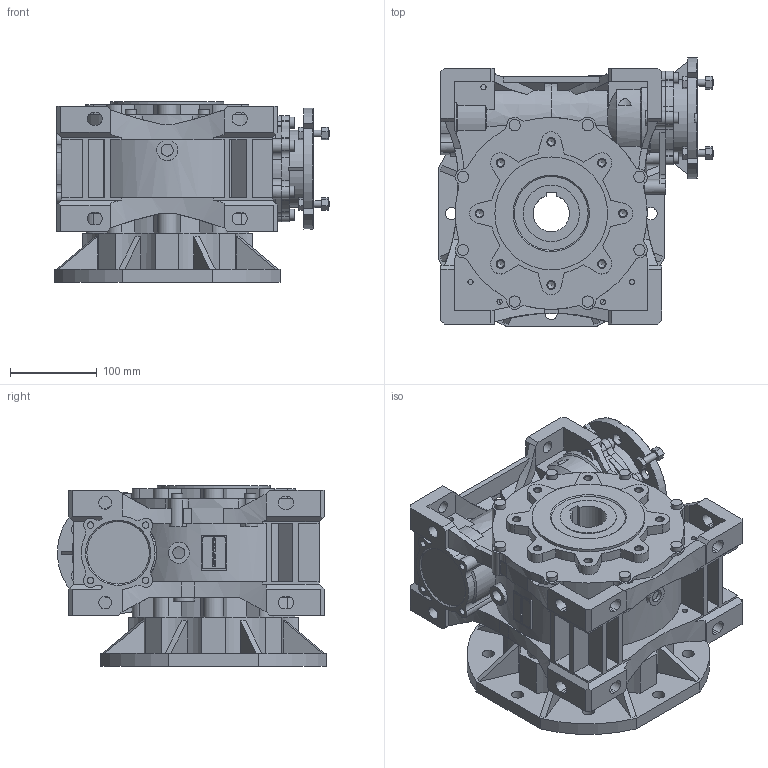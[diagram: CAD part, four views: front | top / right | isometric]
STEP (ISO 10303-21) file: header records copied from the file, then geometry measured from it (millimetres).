
FILE_DESCRIPTION(/* description */ ('STEP AP203'),/* implementation_level */ '2;1');
FILE_NAME(/* name */ 'NMRVP_110_140x24_42_NO_FA_280_S_NO_-_-_-_NO_NO_-_---_---------------',/* time_stamp */ '2025-11-21T02:17:53+01:00',/* author */ ('License CC BY-ND 4.0'),/* organization */ ('CADENAS'),/* preprocessor_version */ 'ST-DEVELOPER v20',/* originating_system */ 'PARTsolutions',/* authorisation */ ' ');
FILE_SCHEMA (('CONFIG_CONTROL_DESIGN'));
Length unit declared in the file: millimetre
Products named in the file (7): NMRVP 110 140x24 42 NO FA 280 S NO - - - NO NO - ---(---------------); W.110.01.M; 110-42 (155); W.110.14.24.M-p; 11090 B14; 110-65; FU 110FA-p
Assembly tree (6 placements, depth 2):
  NMRVP 110 140x24 42 NO FA 280 S NO - - - NO NO - ---(---------------)
    W.110.01.M
    110-42 (155)
    W.110.14.24.M-p
    11090 B14
    110-65
    FU 110FA-p
Bounding box: 317.1 x 309.77 x 208.5 mm (x, y, z)
Volume: 8349790 mm3; surface area: 859145.2 mm2
Topology: 6 solids, 10 shells, 1630 faces, 4419 edges, 2925 vertices
Faces by surface type: plane 825, cylinder 706, cone 90, torus 9
Full cylindrical faces by diameter (mm): 6 x10, 7.45 x12, 8 x8, 8.376 x16, 13 x14, 13.5 x6, 14 x16, 14.5 x2, 16 x8, 24 x2, 39 x1, 41 x1, 55 x1, 56 x1, 63 x1, 65 x3, 81 x1, 90 x3, 130 x3
Entity records: 51250 total; most frequent: CARTESIAN_POINT 9743, DIRECTION 8775, ORIENTED_EDGE 8428, EDGE_CURVE 4214, AXIS2_PLACEMENT_3D 3199, VERTEX_POINT 2887, LINE 2377, VECTOR 2377
